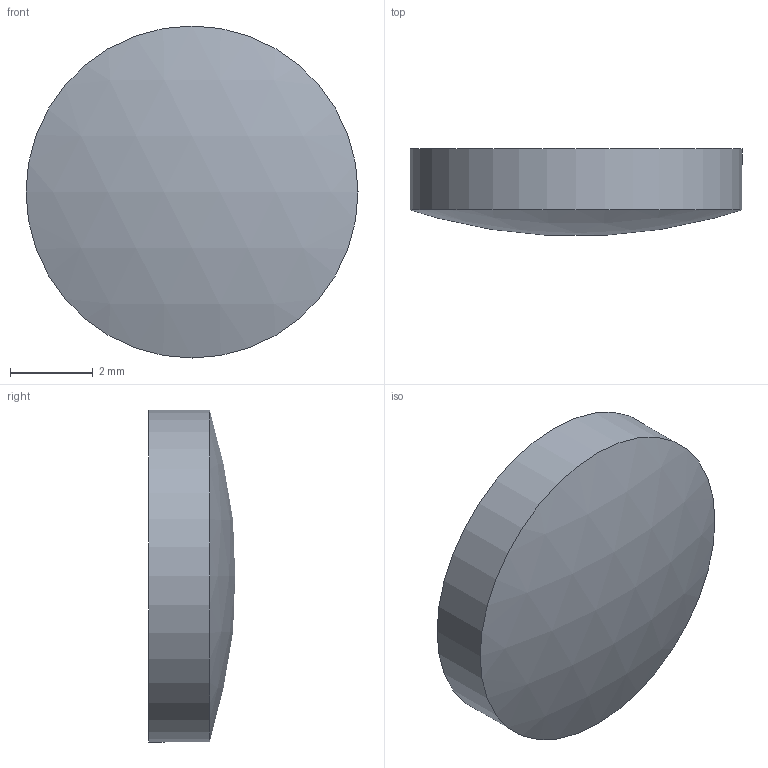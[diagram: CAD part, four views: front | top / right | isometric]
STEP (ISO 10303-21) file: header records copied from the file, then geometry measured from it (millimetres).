
FILE_DESCRIPTION((''),'2;1');
FILE_NAME('Y:\メカ関係\2能登便\素子ﾓﾃﾞﾙ（角屋さま野中さま⇒川島）\5月分\1_球面平凸レンズ-BK7\SLB-P\φ8\SLB-08-25P\SLB-08-25P.stp','2009-05-11T15:08:43',('usernoto011'),(''),'Autodesk Inventor 2008','Autodesk Inventor 2008','');
FILE_SCHEMA(('AUTOMOTIVE_DESIGN { 1 0 10303 214 1 1 1 1 }'));
Length unit declared in the file: millimetre
Products named in the file (1): SLB-08-25P
Bounding box: 8 x 2.08 x 8 mm (x, y, z)
Volume: 89.8 mm3; surface area: 138.7 mm2
Topology: 1 solids, 1 shells, 3 faces, 3 edges, 2 vertices
Faces by surface type: sphere 1, cylinder 1, plane 1
Full cylindrical faces by diameter (mm): 8 x1
Entity records: 80 total; most frequent: DIRECTION 12, CARTESIAN_POINT 8, AXIS2_PLACEMENT_3D 6, ORIENTED_EDGE 4, EDGE_LOOP 4, FACE_OUTER_BOUND 3, ADVANCED_FACE 3, DIMENSIONAL_EXPONENTS 2
